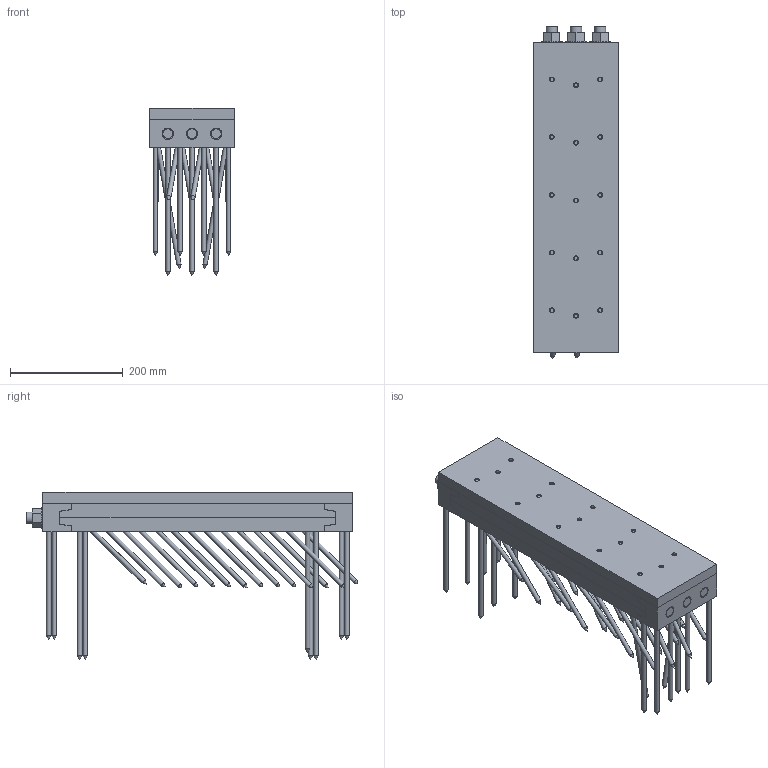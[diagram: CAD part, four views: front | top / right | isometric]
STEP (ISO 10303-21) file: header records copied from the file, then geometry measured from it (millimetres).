
FILE_DESCRIPTION(/* description */ ('Unknown'),/* implementation_level */ '2;1');
FILE_NAME(/* name */ 'MEGANT_550x150x50_Holz-Stahl-Anschluss_verdeckt',/* time_stamp */ '2022-01-20T15:43:24+01:00',/* author */ ('Unknown'),/* organization */ ('Unknown'),/* preprocessor_version */ 'ST-DEVELOPER v16.7',/* originating_system */ 'Solid Edge',/* authorisation */ 'Unknown');
FILE_SCHEMA (('AUTOMOTIVE_DESIGN {1 0 10303 214 3 1 1}'));
Length unit declared in the file: millimetre
Products named in the file (17): MEGANT_550x150x50_Holz-Stahl-Anschluss_verdeckt; Verbinderplatte_490x150x25_NT; SK_Schraube_8x240; Verbinderplatte_490x150x25; SK_Schraube_8x160; Verbinderplatte_490x150x25_HT_Stahl-Anschluss_15xM10x30 ; Verbinderplatte_490x150x25_Stahlanschluss_15xM10x30; SK_M10x30; Spannbacke_oben_150x50x50_NT; Spannbacke_oben_150x50x50; Gewindestange_M20_L580; Mutter_M20; Beilagscheibe_M20; Stahlplatte_150x550x20_15xM10_Bohrungen; Spannbacke_unten_150x50x50_NT; Spannbacke_unten_150x50x50
Assembly tree (74 placements, depth 3):
  MEGANT_550x150x50_Holz-Stahl-Anschluss_verdeckt
    Verbinderplatte_490x150x25_NT
      SK_Schraube_8x240  x8
      Verbinderplatte_490x150x25
      SK_Schraube_8x160  x28
    Verbinderplatte_490x150x25_HT_Stahl-Anschluss_15xM10x30 
      Verbinderplatte_490x150x25_Stahlanschluss_15xM10x30
      SK_M10x30  x15
    Spannbacke_oben_150x50x50_NT
      SK_Schraube_8x240  x4
      Spannbacke_oben_150x50x50
    Gewindestange_M20_L580  x3
      Gewindestange_M20_L580
      Mutter_M20
      Beilagscheibe_M20
    Stahlplatte_150x550x20_15xM10_Bohrungen
    Spannbacke_unten_150x50x50_NT
      Spannbacke_unten_150x50x50
      SK_Schraube_8x240  x4
Bounding box: 150 x 589.49 x 297 mm (x, y, z)
Volume: 5772700.5 mm3; surface area: 1137410.5 mm2
Topology: 73 solids, 73 shells, 858 faces, 2033 edges, 1290 vertices
Faces by surface type: cylinder 352, plane 299, cone 207
Full cylindrical faces by diameter (mm): 8 x44, 8.376 x30, 8.5 x74, 10 x15, 10.2 x15, 15 x118, 17.294 x6, 20 x33, 21 x6, 37 x3
Entity records: 15195 total; most frequent: DIRECTION 2574, CARTESIAN_POINT 2303, ORIENTED_EDGE 1876, FACE_BOUND 1072, EDGE_LOOP 1070, AXIS2_PLACEMENT_3D 1043, EDGE_CURVE 938, VERTEX_POINT 772
